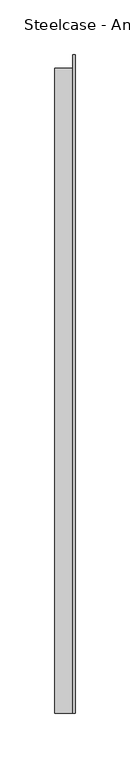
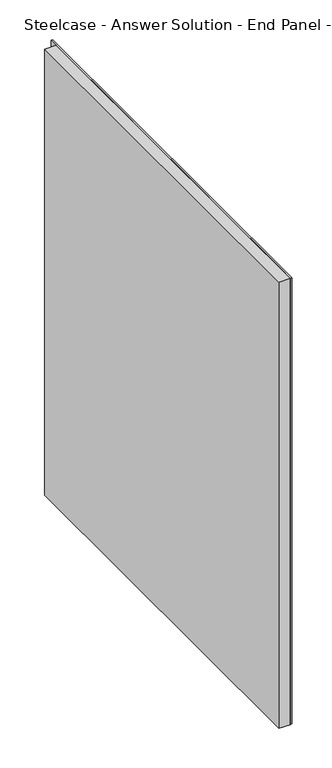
"""IFC4 building model written with IfcOpenShell, lengths in millimetres: furniture geometry, Steelcase - Answer Solution - End Panel - On Module : 24in - Right."""

from ifc_helpers import new_model, si_unit, origin, origin_with_axes, place, context, project, spatial, polyline, outline, extrude, source, transform, mapped, element, save


def steelcase_answer_solution_end_panel_on_module_24in_right_417587d6(model_context):
    return source(origin(), model_context, "Body", "SweptSolid", [
        extrude(outline(polyline([(-6.9848062, 0.0), (-6.9848062, -603.25), (-9.5248062, -603.25), (-9.5248062, 0.0), (-6.9848062, 0.0)])), origin_with_axes(), (0.0, 0.0, 1.0), 685.9143099),
        extrude(outline(polyline([(-9.5248062, -12.7032217), (-9.5248062, -603.25), (-26.0348062, -603.25), (-26.0348062, -12.7032217), (-9.5248062, -12.7032217)])), origin_with_axes(), (0.0, 0.0, 1.0), 685.9143099),
    ])


if __name__ == "__main__":
    model = new_model("IFC4")
    model_context = context("Model", 3, world=origin())
    ifc_project = project(units=[si_unit("LENGTHUNIT", "METRE", prefix="MILLI")], contexts=[model_context])
    site = spatial("IfcSite", under=ifc_project)
    building = spatial("IfcBuilding", under=site)
    placement = place(None, origin())
    steelcase_answer_solution_end_panel_on_module_24in_right_shape = steelcase_answer_solution_end_panel_on_module_24in_right_417587d6(model_context)
    element("IfcFurniture", 1, ObjectType="Steelcase - Answer Solution - End Panel - On Module : 24in - Right", at=placement, inside=building, context=model_context, shape_type="MappedRepresentation", body=[
        mapped(steelcase_answer_solution_end_panel_on_module_24in_right_shape, transform((0.0, 0.0, 0.0), x_axis=(1.0, 0.0, 0.0), y_axis=(0.0, 1.0, 0.0), z_axis=(0.0, 0.0, 1.0))),
    ])
    save(model, "model.ifc")
